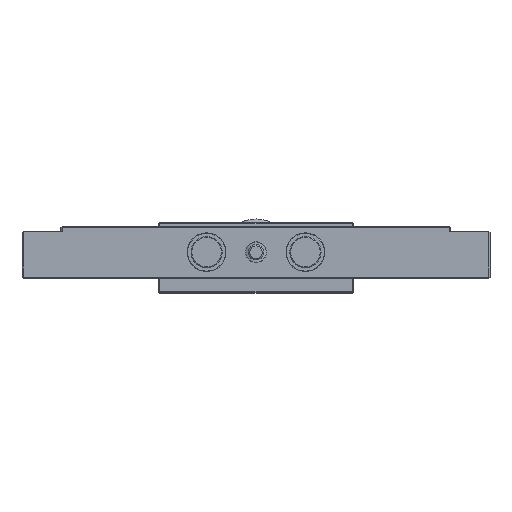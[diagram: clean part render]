
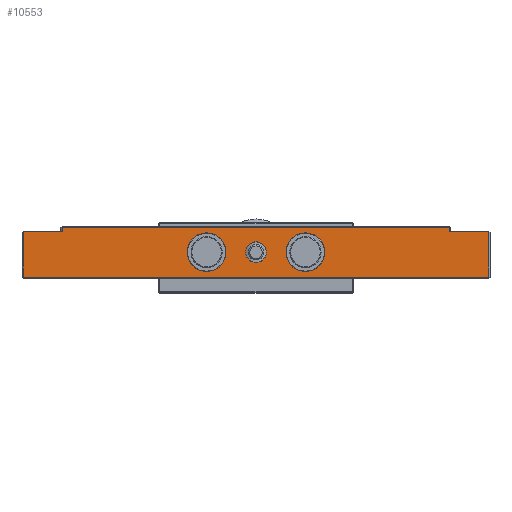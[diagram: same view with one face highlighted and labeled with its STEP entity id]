
A CAD part, top view. The second image highlights one B-rep face of the part: STEP entity #10553.
In plain terms, the highlighted planar face has unit normal (0, 0, 1) as drawn and (0, 0, -1) by its records, which use the part's own axes.
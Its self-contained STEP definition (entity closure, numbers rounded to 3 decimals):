
#331 = LINE ( 'NONE', #6717, #7844 ) ;
#894 = EDGE_CURVE ( 'NONE', #28900, #7298, #331, .T. ) ;
#902 = EDGE_LOOP ( 'NONE', ( #8657, #20753, #26280, #30670, #31512, #18175, #29398, #25225 ) ) ;
#1037 = DIRECTION ( 'NONE',  ( 1., 0., 0. ) ) ;
#1078 = CARTESIAN_POINT ( 'NONE',  ( -11.55, 0., -37.5 ) ) ;
#1446 = CIRCLE ( 'NONE', #23428, 7.45 ) ;
#1884 = LINE ( 'NONE', #17276, #27130 ) ;
#1949 = CARTESIAN_POINT ( 'NONE',  ( 0., 0., -37.5 ) ) ;
#2123 = ORIENTED_EDGE ( 'NONE', *, *, #6975, .F. ) ;
#2354 = EDGE_CURVE ( 'NONE', #26978, #7298, #27497, .T. ) ;
#2472 = FACE_BOUND ( 'NONE', #24179, .T. ) ;
#2600 = DIRECTION ( 'NONE',  ( -1., 0., 0. ) ) ;
#2653 = VERTEX_POINT ( 'NONE', #10591 ) ;
#3000 = CARTESIAN_POINT ( 'NONE',  ( 89.6, -9.6, -37.5 ) ) ;
#3347 = AXIS2_PLACEMENT_3D ( 'NONE', #1949, #19569, #4493 ) ;
#3611 = LINE ( 'NONE', #4137, #29607 ) ;
#4137 = CARTESIAN_POINT ( 'NONE',  ( 89.6, -10., -37.5 ) ) ;
#4493 = DIRECTION ( 'NONE',  ( 1., 0., 0. ) ) ;
#4878 = DIRECTION ( 'NONE',  ( 0., 0., -1. ) ) ;
#5742 = DIRECTION ( 'NONE',  ( 0., 0., 1. ) ) ;
#6634 = DIRECTION ( 'NONE',  ( -1., 0., 0. ) ) ;
#6717 = CARTESIAN_POINT ( 'NONE',  ( -90., 8., -37.5 ) ) ;
#6947 = DIRECTION ( 'NONE',  ( 0., 1., 0. ) ) ;
#6975 = EDGE_CURVE ( 'NONE', #16319, #20917, #11271, .T. ) ;
#7244 = AXIS2_PLACEMENT_3D ( 'NONE', #10835, #28440, #13347 ) ;
#7298 = VERTEX_POINT ( 'NONE', #27806 ) ;
#7643 = CARTESIAN_POINT ( 'NONE',  ( 89.6, 8., -37.5 ) ) ;
#7844 = VECTOR ( 'NONE', #6634, 1000. ) ;
#7941 = ORIENTED_EDGE ( 'NONE', *, *, #31327, .F. ) ;
#8283 = CARTESIAN_POINT ( 'NONE',  ( 90., -10., -37.5 ) ) ;
#8291 = CARTESIAN_POINT ( 'NONE',  ( 74.6, -10., -37.5 ) ) ;
#8387 = FACE_BOUND ( 'NONE', #26169, .T. ) ;
#8634 = EDGE_CURVE ( 'NONE', #29213, #26847, #22655, .T. ) ;
#8657 = ORIENTED_EDGE ( 'NONE', *, *, #28366, .T. ) ;
#9542 = CARTESIAN_POINT ( 'NONE',  ( -19., 0., -37.5 ) ) ;
#9818 = AXIS2_PLACEMENT_3D ( 'NONE', #8283, #5742, #13340 ) ;
#9983 = FACE_OUTER_BOUND ( 'NONE', #902, .T. ) ;
#10104 = CARTESIAN_POINT ( 'NONE',  ( 90., -9.6, -37.5 ) ) ;
#10553 = ADVANCED_FACE ( 'NONE', ( #2472, #8387, #28486, #9983 ), #28432, .F. ) ;
#10591 = CARTESIAN_POINT ( 'NONE',  ( -74.6, 9.6, -37.5 ) ) ;
#10835 = CARTESIAN_POINT ( 'NONE',  ( 19., 0., -37.5 ) ) ;
#11238 = EDGE_CURVE ( 'NONE', #30257, #14457, #25743, .T. ) ;
#11271 = CIRCLE ( 'NONE', #26656, 7.45 ) ;
#11346 = CIRCLE ( 'NONE', #30958, 7.45 ) ;
#12088 = DIRECTION ( 'NONE',  ( 1., 0., 0. ) ) ;
#12149 = CARTESIAN_POINT ( 'NONE',  ( -19., 0., -37.5 ) ) ;
#12515 = CARTESIAN_POINT ( 'NONE',  ( 74.6, 9.6, -37.5 ) ) ;
#12650 = VECTOR ( 'NONE', #29170, 1000. ) ;
#13340 = DIRECTION ( 'NONE',  ( -1., 0., 0. ) ) ;
#13347 = DIRECTION ( 'NONE',  ( 1., 0., 0. ) ) ;
#13427 = LINE ( 'NONE', #19038, #12650 ) ;
#13523 = CARTESIAN_POINT ( 'NONE',  ( 26.45, 0., -37.5 ) ) ;
#14088 = LINE ( 'NONE', #10104, #25930 ) ;
#14457 = VERTEX_POINT ( 'NONE', #15230 ) ;
#14667 = DIRECTION ( 'NONE',  ( 1., 0., 0. ) ) ;
#15230 = CARTESIAN_POINT ( 'NONE',  ( -4., 0., -37.5 ) ) ;
#15422 = EDGE_CURVE ( 'NONE', #21941, #20531, #3611, .T. ) ;
#16111 = DIRECTION ( 'NONE',  ( 0., 0., -1. ) ) ;
#16319 = VERTEX_POINT ( 'NONE', #32255 ) ;
#17276 = CARTESIAN_POINT ( 'NONE',  ( -74.6, -10., -37.5 ) ) ;
#17348 = EDGE_CURVE ( 'NONE', #2653, #23121, #13427, .T. ) ;
#17388 = DIRECTION ( 'NONE',  ( 0., 1., 0. ) ) ;
#17489 = EDGE_CURVE ( 'NONE', #21941, #29381, #17727, .T. ) ;
#17727 = LINE ( 'NONE', #20467, #30328 ) ;
#17909 = DIRECTION ( 'NONE',  ( -1., 0., 0. ) ) ;
#18175 = ORIENTED_EDGE ( 'NONE', *, *, #894, .F. ) ;
#19038 = CARTESIAN_POINT ( 'NONE',  ( 75., 9.6, -37.5 ) ) ;
#19495 = CARTESIAN_POINT ( 'NONE',  ( -89.6, -10., -37.5 ) ) ;
#19569 = DIRECTION ( 'NONE',  ( 0., 0., -1. ) ) ;
#19949 = CARTESIAN_POINT ( 'NONE',  ( 19., 0., -37.5 ) ) ;
#20161 = ORIENTED_EDGE ( 'NONE', *, *, #8634, .F. ) ;
#20240 = CARTESIAN_POINT ( 'NONE',  ( 4., 0., -37.5 ) ) ;
#20467 = CARTESIAN_POINT ( 'NONE',  ( 90., 8., -37.5 ) ) ;
#20531 = VERTEX_POINT ( 'NONE', #3000 ) ;
#20753 = ORIENTED_EDGE ( 'NONE', *, *, #17489, .F. ) ;
#20792 = VECTOR ( 'NONE', #6947, 1000. ) ;
#20917 = VERTEX_POINT ( 'NONE', #1078 ) ;
#21941 = VERTEX_POINT ( 'NONE', #7643 ) ;
#22355 = EDGE_CURVE ( 'NONE', #26847, #29213, #1446, .T. ) ;
#22505 = DIRECTION ( 'NONE',  ( 1., 0., 0. ) ) ;
#22655 = CIRCLE ( 'NONE', #7244, 7.45 ) ;
#22861 = CIRCLE ( 'NONE', #3347, 4. ) ;
#23121 = VERTEX_POINT ( 'NONE', #12515 ) ;
#23428 = AXIS2_PLACEMENT_3D ( 'NONE', #19949, #4878, #22505 ) ;
#24179 = EDGE_LOOP ( 'NONE', ( #27601, #20161 ) ) ;
#24317 = DIRECTION ( 'NONE',  ( 0., -1., 0. ) ) ;
#24785 = CARTESIAN_POINT ( 'NONE',  ( 11.55, 0., -37.5 ) ) ;
#25225 = ORIENTED_EDGE ( 'NONE', *, *, #17348, .T. ) ;
#25657 = VECTOR ( 'NONE', #25928, 1000. ) ;
#25743 = CIRCLE ( 'NONE', #26080, 4. ) ;
#25894 = CARTESIAN_POINT ( 'NONE',  ( -74.6, 8., -37.5 ) ) ;
#25928 = DIRECTION ( 'NONE',  ( 0., -1., 0. ) ) ;
#25930 = VECTOR ( 'NONE', #2600, 1000. ) ;
#26080 = AXIS2_PLACEMENT_3D ( 'NONE', #31161, #16111, #1037 ) ;
#26169 = EDGE_LOOP ( 'NONE', ( #7941, #2123 ) ) ;
#26280 = ORIENTED_EDGE ( 'NONE', *, *, #15422, .T. ) ;
#26656 = AXIS2_PLACEMENT_3D ( 'NONE', #12149, #29721, #14667 ) ;
#26847 = VERTEX_POINT ( 'NONE', #13523 ) ;
#26978 = VERTEX_POINT ( 'NONE', #31348 ) ;
#27130 = VECTOR ( 'NONE', #17388, 1000. ) ;
#27176 = DIRECTION ( 'NONE',  ( 0., 0., -1. ) ) ;
#27497 = LINE ( 'NONE', #19495, #20792 ) ;
#27601 = ORIENTED_EDGE ( 'NONE', *, *, #22355, .F. ) ;
#27727 = EDGE_LOOP ( 'NONE', ( #32076, #30311 ) ) ;
#27806 = CARTESIAN_POINT ( 'NONE',  ( -89.6, 8., -37.5 ) ) ;
#28366 = EDGE_CURVE ( 'NONE', #23121, #29381, #31455, .T. ) ;
#28432 = PLANE ( 'NONE',  #9818 ) ;
#28440 = DIRECTION ( 'NONE',  ( 0., 0., -1. ) ) ;
#28486 = FACE_BOUND ( 'NONE', #27727, .T. ) ;
#28900 = VERTEX_POINT ( 'NONE', #25894 ) ;
#29132 = EDGE_CURVE ( 'NONE', #14457, #30257, #22861, .T. ) ;
#29170 = DIRECTION ( 'NONE',  ( 1., 0., 0. ) ) ;
#29213 = VERTEX_POINT ( 'NONE', #24785 ) ;
#29381 = VERTEX_POINT ( 'NONE', #32102 ) ;
#29398 = ORIENTED_EDGE ( 'NONE', *, *, #31053, .T. ) ;
#29607 = VECTOR ( 'NONE', #24317, 1000. ) ;
#29721 = DIRECTION ( 'NONE',  ( 0., 0., -1. ) ) ;
#30257 = VERTEX_POINT ( 'NONE', #20240 ) ;
#30311 = ORIENTED_EDGE ( 'NONE', *, *, #29132, .F. ) ;
#30328 = VECTOR ( 'NONE', #17909, 1000. ) ;
#30670 = ORIENTED_EDGE ( 'NONE', *, *, #31597, .T. ) ;
#30958 = AXIS2_PLACEMENT_3D ( 'NONE', #9542, #27176, #12088 ) ;
#31053 = EDGE_CURVE ( 'NONE', #28900, #2653, #1884, .T. ) ;
#31161 = CARTESIAN_POINT ( 'NONE',  ( 0., 0., -37.5 ) ) ;
#31327 = EDGE_CURVE ( 'NONE', #20917, #16319, #11346, .T. ) ;
#31348 = CARTESIAN_POINT ( 'NONE',  ( -89.6, -9.6, -37.5 ) ) ;
#31455 = LINE ( 'NONE', #8291, #25657 ) ;
#31512 = ORIENTED_EDGE ( 'NONE', *, *, #2354, .T. ) ;
#31597 = EDGE_CURVE ( 'NONE', #20531, #26978, #14088, .T. ) ;
#32076 = ORIENTED_EDGE ( 'NONE', *, *, #11238, .F. ) ;
#32102 = CARTESIAN_POINT ( 'NONE',  ( 74.6, 8., -37.5 ) ) ;
#32255 = CARTESIAN_POINT ( 'NONE',  ( -26.45, 0., -37.5 ) ) ;
